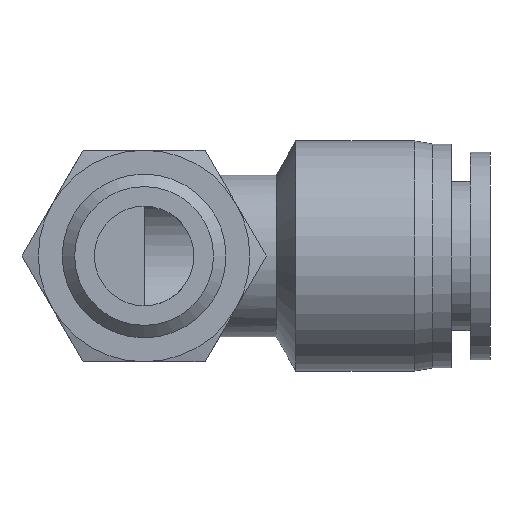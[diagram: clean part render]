
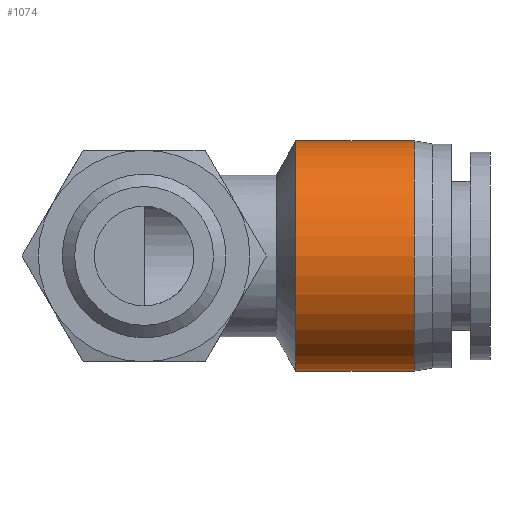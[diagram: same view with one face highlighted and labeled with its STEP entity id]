
A CAD part, front view. The second image highlights one B-rep face of the part: STEP entity #1074.
In plain terms, the highlighted cylindrical face has radius 9.25 mm (diameter 18.5 mm), a full revolution.
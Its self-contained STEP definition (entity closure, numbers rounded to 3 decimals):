
#1040=CARTESIAN_POINT('',(12.2,9.25,0.0));
#1041=VERTEX_POINT('',#1040);
#1042=CARTESIAN_POINT('',(12.2,0.0,0.0));
#1043=DIRECTION('',(1.0,0.0,0.0));
#1044=DIRECTION('',(0.0,1.0,0.0));
#1045=AXIS2_PLACEMENT_3D('',#1042,#1043,#1044);
#1046=CIRCLE('',#1045,9.25);
#1047=EDGE_CURVE('',#1041,#1041,#1046,.T.);
#1055=CARTESIAN_POINT('',(16.95,0.0,0.0));
#1056=DIRECTION('',(1.0,0.0,0.0));
#1057=DIRECTION('',(0.0,1.0,0.0));
#1058=AXIS2_PLACEMENT_3D('',#1055,#1056,#1057);
#1059=CYLINDRICAL_SURFACE('',#1058,9.25);
#1060=CARTESIAN_POINT('',(21.7,9.25,0.0));
#1061=VERTEX_POINT('',#1060);
#1062=CARTESIAN_POINT('',(21.7,0.0,0.0));
#1063=DIRECTION('',(1.0,0.0,0.0));
#1064=DIRECTION('',(0.0,1.0,0.0));
#1065=AXIS2_PLACEMENT_3D('',#1062,#1063,#1064);
#1066=CIRCLE('',#1065,9.25);
#1067=EDGE_CURVE('',#1061,#1061,#1066,.T.);
#1068=ORIENTED_EDGE('',*,*,#1067,.F.);
#1069=EDGE_LOOP('',(#1068));
#1070=FACE_OUTER_BOUND('',#1069,.T.);
#1071=ORIENTED_EDGE('',*,*,#1047,.T.);
#1072=EDGE_LOOP('',(#1071));
#1073=FACE_BOUND('',#1072,.T.);
#1074=ADVANCED_FACE('',(#1070,#1073),#1059,.T.);
